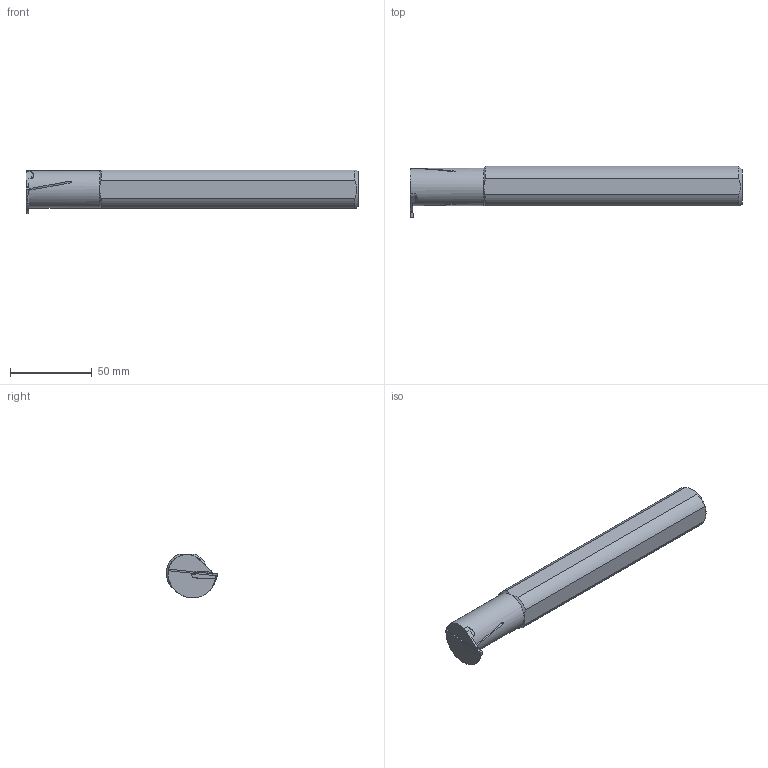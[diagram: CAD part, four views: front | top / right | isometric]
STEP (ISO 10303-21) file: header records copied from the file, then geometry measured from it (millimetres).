
FILE_DESCRIPTION(/* description */ (''),/* implementation_level */ '2;1');
FILE_NAME(/* name */ 'MGIVR20-16-2-HAAS.stp',/* time_stamp */ '2020-11-06T16:48:58+09:00',/* author */ (''),/* organization */ (''),/* preprocessor_version */ 'ST-DEVELOPER v11',/* originating_system */ 'SIEMENS UGS NX 6.0',/* authorisation */ '');
FILE_SCHEMA (('CONFIG_CONTROL_DESIGN'));
Length unit declared in the file: millimetre
Products named in the file (1): userB0F4co7w
Bounding box: 203.2 x 31.6 x 26.68 mm (x, y, z)
Volume: 86084.4 mm3; surface area: 22557.4 mm2
Topology: 2 solids, 2 shells, 72 faces, 188 edges, 120 vertices
Faces by surface type: plane 37, cylinder 29, torus 3, cone 3
Full cylindrical faces by diameter (mm): 8 x1, 23 x1
Entity records: 2347 total; most frequent: CARTESIAN_POINT 517, DIRECTION 367, ORIENTED_EDGE 360, EDGE_CURVE 180, AXIS2_PLACEMENT_3D 131, VERTEX_POINT 117, LINE 105, VECTOR 105
